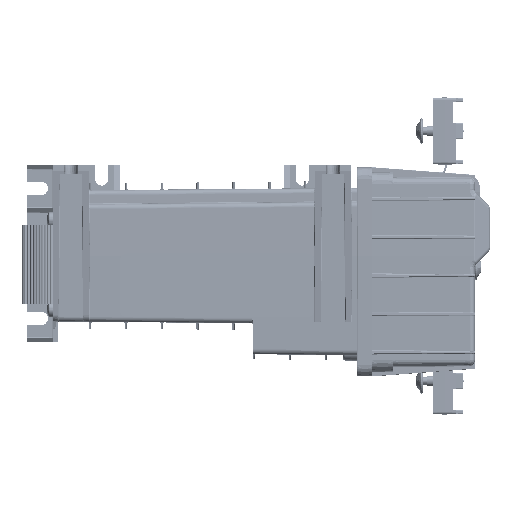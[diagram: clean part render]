
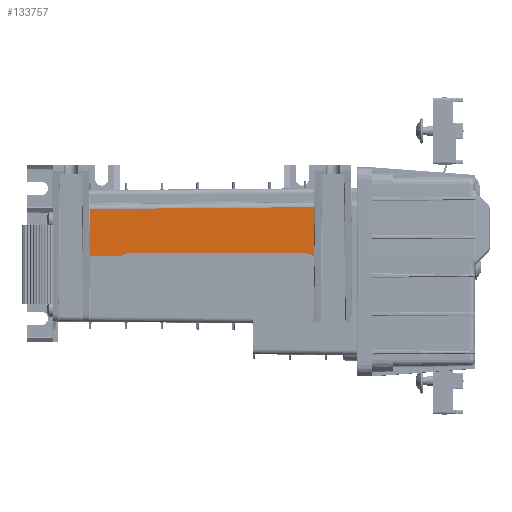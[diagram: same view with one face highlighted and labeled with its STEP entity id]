
A CAD part, left-side view. The second image highlights one B-rep face of the part: STEP entity #133757.
In plain terms, the highlighted planar face has unit normal (-1, 0.009, 0.009) as drawn and (0.009, -0.009, 1) by its records, which use the part's own axes.
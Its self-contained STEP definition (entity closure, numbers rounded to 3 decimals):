
#101254=DIRECTION('',(-1.,-0.009,0.009));
#101255=VECTOR('',#101254,87.633);
#101256=CARTESIAN_POINT('',(55.808,7.274,
87.948));
#101257=LINE('',#101256,#101255);
#101258=DIRECTION('',(0.009,1.,0.009));
#101259=VECTOR('',#101258,19.092);
#101260=CARTESIAN_POINT('',(-31.819,6.51,
88.706));
#101261=LINE('',#101260,#101259);
#101262=DIRECTION('',(1.,0.,-0.009));
#101263=VECTOR('',#101262,87.303);
#101264=CARTESIAN_POINT('',(-31.652,25.6,88.871));
#101265=LINE('',#101264,#101263);
#101266=DIRECTION('',(0.009,-1.,-0.009));
#101267=VECTOR('',#101266,18.327);
#101268=CARTESIAN_POINT('',(55.648,25.6,88.11));
#101269=LINE('',#101268,#101267);
#130495=CARTESIAN_POINT('',(55.648,25.6,88.11));
#130496=VERTEX_POINT('',#130495);
#130497=CARTESIAN_POINT('',(-31.652,25.6,88.871));
#130498=VERTEX_POINT('',#130497);
#130532=CARTESIAN_POINT('',(55.808,7.274,
87.948));
#130533=CARTESIAN_POINT('',(-31.819,6.51,
88.706));
#130534=VERTEX_POINT('',#130532);
#130535=VERTEX_POINT('',#130533);
#133744=CARTESIAN_POINT('',(56.2,25.6,88.105));
#133745=DIRECTION('',(0.009,-0.009,1.));
#133746=DIRECTION('',(-1.,0.,0.009));
#133747=AXIS2_PLACEMENT_3D('',#133744,#133745,#133746);
#133748=PLANE('',#133747);
#133750=ORIENTED_EDGE('',*,*,#133749,.T.);
#133751=ORIENTED_EDGE('',*,*,#133734,.T.);
#133752=ORIENTED_EDGE('',*,*,#133630,.T.);
#133754=ORIENTED_EDGE('',*,*,#133753,.T.);
#133755=EDGE_LOOP('',(#133750,#133751,#133752,#133754));
#133756=FACE_OUTER_BOUND('',#133755,.F.);
#133757=ADVANCED_FACE('',(#133756),#133748,.T.);
#133630=EDGE_CURVE('',#130498,#130496,#101265,.T.);
#133734=EDGE_CURVE('',#130535,#130498,#101261,.T.);
#133749=EDGE_CURVE('',#130534,#130535,#101257,.T.);
#133753=EDGE_CURVE('',#130496,#130534,#101269,.T.);
